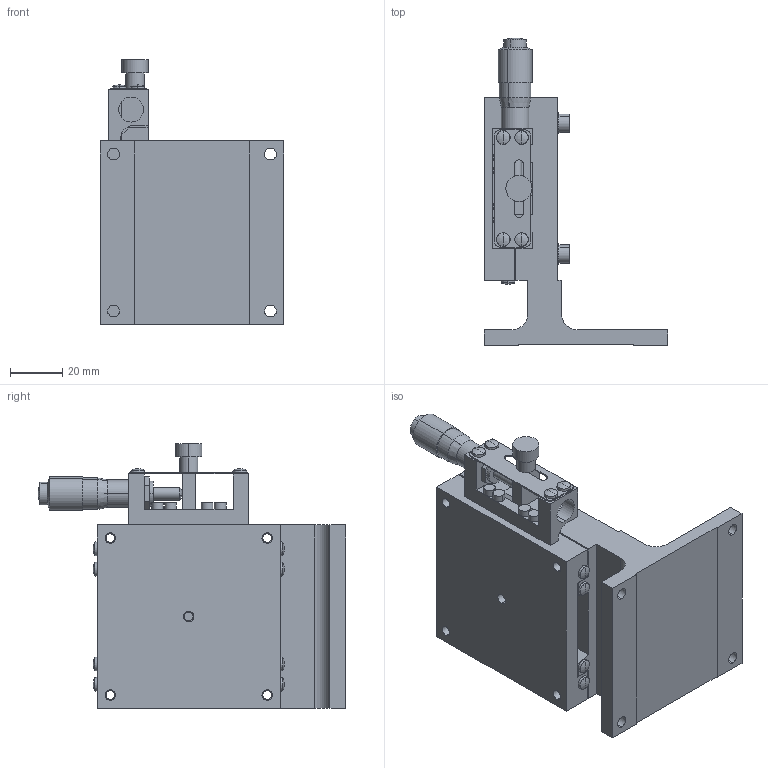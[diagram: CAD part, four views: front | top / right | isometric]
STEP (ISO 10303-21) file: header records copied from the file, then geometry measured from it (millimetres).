
FILE_DESCRIPTION (( 'STEP AP214' ), '1' );
FILE_NAME ('LZ‐7041‐S8‐2.STEP', '2007-08-29T01:13:22', ( '' ), ( '' ), 'SwSTEP 2.0', 'SolidWorks 2006303', '' );
FILE_SCHEMA (( 'AUTOMOTIVE_DESIGN' ));
Length unit declared in the file: millimetre
Products named in the file (3): LZ70S820‐1_ﾃﾞﾌｫﾙﾄ; LZ‐7041‐S8‐2; LZ70S820‐2_ﾃﾞﾌｫﾙﾄ
Assembly tree (2 placements, depth 2):
  LZ‐7041‐S8‐2
    LZ70S820‐2_ﾃﾞﾌｫﾙﾄ
    LZ70S820‐1_ﾃﾞﾌｫﾙﾄ
Bounding box: 70 x 117.5 x 101 mm (x, y, z)
Volume: 176060.1 mm3; surface area: 58849.7 mm2
Topology: 3 solids, 7 shells, 344 faces, 825 edges, 530 vertices
Faces by surface type: cylinder 145, plane 143, cone 28, sphere 26, torus 2
Entity records: 10247 total; most frequent: DIRECTION 1919, CARTESIAN_POINT 1702, ORIENTED_EDGE 1646, EDGE_CURVE 823, AXIS2_PLACEMENT_3D 747, VERTEX_POINT 530, EDGE_LOOP 427, VECTOR 425
